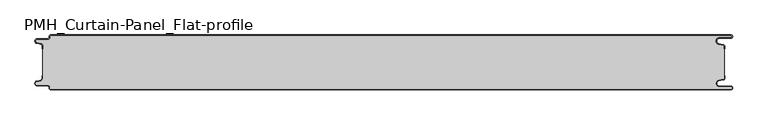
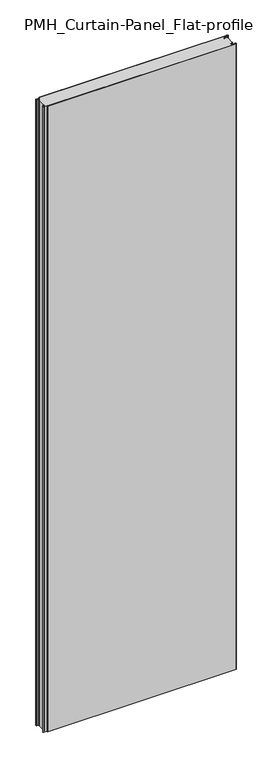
"""IFC4 building model written with IfcOpenShell, lengths in millimetres: plate geometry, PMH_Curtain-Panel_Flat-profile : ACH_PMH_Stone-wool-Panel_80M."""

from ifc_helpers import new_model, si_unit, point, frame, frame_2d, origin, origin_with_axes, place, context, project, spatial, polyline, circle_curve, trimmed, segment, composite_curve, outline, extrude, source, transform, mapped, element, save
from ifc_brep_helpers import plane_surface, cylinder_surface, revolved_surface, advanced_brep


def pmh_curtain_panel_flat_profile_2c1a84a9(model_context):
    return source(origin(), model_context, "Body", "SolidModel", [
        advanced_brep(
        [(508.1, 0.0, 3500.0), (-487.4, 0.0, 3500.0), (-489.4, -2.0, 3500.0), (-489.4, -3.4, 3500.0), (-491.4, -5.4, 3500.0), (-506.9, -5.4, 3500.0), (-507.7098239, -12.5077322, 3500.0), (-501.5500979, -13.929817, 3500.0), (-500.0, -15.878557, 3500.0), (-500.0, -20.0, 3500.0), (-499.2, -20.0, 3500.0), (-499.2, -15.878557, 3500.0), (-501.370137, -13.1503208, 3500.0), (-507.529863, -11.728236, 3500.0), (-506.9, -6.2, 3500.0), (-491.4, -6.2, 3500.0), (-488.6, -3.4, 3500.0), (-488.6, -2.0, 3500.0), (-487.4, -0.8, 3500.0), (508.1, -0.8, 3500.0), (508.1, -4.2, 3500.0), (491.1, -4.2, 3500.0), (490.2664884, -13.7270771, 3500.0), (496.7125669, -14.8636953, 3500.0), (498.2, -16.6363492, 3500.0), (498.2, -20.0, 3500.0), (499.0, -20.0, 3500.0), (499.0, -16.6363492, 3500.0), (496.8514855, -14.0758491, 3500.0), (490.405407, -12.939231, 3500.0), (491.1, -5.0, 3500.0), (508.1, -5.0, 3500.0), (510.6, -2.5000002, 3500.0), (-487.4, 0.0, 0.0), (508.1, 0.0, 0.0), (510.6, -2.4999998, 0.0), (508.1, -5.0, 0.0), (491.1, -5.0, 0.0), (490.405407, -12.939231, 0.0), (496.8514855, -14.0758491, 0.0), (499.0, -16.6363492, 0.0), (499.0, -20.0, 0.0), (498.2, -20.0, 0.0), (498.2, -16.6363492, 0.0), (496.7125669, -14.8636953, 0.0), (490.2664884, -13.7270771, 0.0), (491.1, -4.2, 0.0), (508.1, -4.2, 0.0), (508.1, -0.8, 0.0), (-487.4, -0.8, 0.0), (-488.6, -2.0, 0.0), (-488.6, -3.4, 0.0), (-491.4, -6.2, 0.0), (-506.9, -6.2, 0.0), (-507.529863, -11.7282362, 0.0), (-501.370137, -13.150321, 0.0), (-499.2, -15.878557, 0.0), (-499.2, -20.0, 0.0), (-500.0, -20.0, 0.0), (-500.0, -15.878557, 0.0), (-501.5500978, -13.9298169, 0.0), (-507.7098239, -12.507732, 0.0), (-506.9, -5.4, 0.0), (-491.4, -5.4, 0.0), (-489.4, -3.4, 0.0), (-489.4, -2.0, 0.0)],
        [
            (0, 1),
            (1, 2, circle_curve(frame((-487.4, -2.0, 3500.0), z_axis=(0.0, 0.0, 1.0), x_axis=(1.0, 0.0, 0.0)), 2.0)),
            (2, 3),
            (3, 4, circle_curve(frame((-491.4, -3.4, 3500.0), z_axis=(0.0, 0.0, -1.0), x_axis=(1.0, 0.0, 0.0)), 2.0)),
            (4, 5),
            (5, 6, circle_curve(frame((-506.9, -9.0, 3500.0), z_axis=(0.0, 0.0, 1.0), x_axis=(1.0, 0.0, 0.0)), 3.6)),
            (6, 7),
            (7, 8, circle_curve(frame((-502.0, -15.878557, 3500.0), z_axis=(0.0, 0.0, -1.0), x_axis=(1.0, 0.0, 0.0)), 2.0)),
            (8, 9),
            (9, 10),
            (10, 11),
            (11, 12, circle_curve(frame((-502.0, -15.878557, 3500.0), z_axis=(0.0, 0.0, 1.0), x_axis=(1.0, 0.0, 0.0)), 2.8)),
            (12, 13),
            (13, 14, circle_curve(frame((-506.9, -9.0, 3500.0), z_axis=(0.0, 0.0, -1.0), x_axis=(1.0, 0.0, 0.0)), 2.8)),
            (14, 15),
            (15, 16, circle_curve(frame((-491.4, -3.4, 3500.0), z_axis=(0.0, 0.0, 1.0), x_axis=(1.0, 0.0, 0.0)), 2.8)),
            (16, 17),
            (17, 18, circle_curve(frame((-487.4, -2.0, 3500.0), z_axis=(0.0, 0.0, -1.0), x_axis=(1.0, 0.0, 0.0)), 1.2)),
            (18, 19),
            (19, 20, circle_curve(frame((508.1, -2.5, 3500.0), z_axis=(0.0, 0.0, -1.0), x_axis=(1.0, 0.0, 0.0)), 1.7)),
            (20, 21),
            (21, 22, circle_curve(frame((491.1, -9.0, 3500.0), z_axis=(0.0, 0.0, 1.0), x_axis=(1.0, 0.0, 0.0)), 4.8)),
            (22, 23),
            (23, 24, circle_curve(frame((496.4, -16.6363492, 3500.0), z_axis=(0.0, 0.0, -1.0), x_axis=(1.0, 0.0, 0.0)), 1.8)),
            (24, 25),
            (25, 26),
            (26, 27),
            (27, 28, circle_curve(frame((496.4, -16.6363492, 3500.0), z_axis=(0.0, 0.0, 1.0), x_axis=(1.0, 0.0, 0.0)), 2.6)),
            (28, 29),
            (29, 30, circle_curve(frame((491.1, -9.0, 3500.0), z_axis=(0.0, 0.0, -1.0), x_axis=(1.0, 0.0, 0.0)), 4.0)),
            (30, 31),
            (31, 32, circle_curve(frame((508.1, -2.5, 3500.0), z_axis=(0.0, 0.0, 1.0), x_axis=(1.0, 0.0, 0.0)), 2.5)),
            (32, 0, circle_curve(frame((508.1, -2.5, 3500.0), z_axis=(0.0, 0.0, 1.0), x_axis=(1.0, 0.0, 0.0)), 2.5)),
            (33, 34),
            (34, 35, circle_curve(frame((508.1, -2.5, 0.0), z_axis=(0.0, 0.0, -1.0), x_axis=(1.0, 0.0, 0.0)), 2.5)),
            (35, 36, circle_curve(frame((508.1, -2.5, 0.0), z_axis=(0.0, 0.0, -1.0), x_axis=(1.0, 0.0, 0.0)), 2.5)),
            (36, 37),
            (37, 38, circle_curve(frame((491.1, -9.0, 0.0), z_axis=(0.0, 0.0, 1.0), x_axis=(1.0, 0.0, 0.0)), 4.0)),
            (38, 39),
            (39, 40, circle_curve(frame((496.4, -16.6363492, 0.0), z_axis=(0.0, 0.0, -1.0), x_axis=(1.0, 0.0, 0.0)), 2.6)),
            (40, 41),
            (41, 42),
            (42, 43),
            (43, 44, circle_curve(frame((496.4, -16.6363492, 0.0), z_axis=(0.0, 0.0, 1.0), x_axis=(1.0, 0.0, 0.0)), 1.8)),
            (44, 45),
            (45, 46, circle_curve(frame((491.1, -9.0, 0.0), z_axis=(0.0, 0.0, -1.0), x_axis=(1.0, 0.0, 0.0)), 4.8)),
            (46, 47),
            (47, 48, circle_curve(frame((508.1, -2.5, 0.0), z_axis=(0.0, 0.0, 1.0), x_axis=(1.0, 0.0, 0.0)), 1.7)),
            (48, 49),
            (49, 50, circle_curve(frame((-487.4, -2.0, 0.0), z_axis=(0.0, 0.0, 1.0), x_axis=(1.0, 0.0, 0.0)), 1.2)),
            (50, 51),
            (51, 52, circle_curve(frame((-491.4, -3.4, 0.0), z_axis=(0.0, 0.0, -1.0), x_axis=(1.0, 0.0, 0.0)), 2.8)),
            (52, 53),
            (53, 54, circle_curve(frame((-506.9, -9.0, 0.0), z_axis=(0.0, 0.0, 1.0), x_axis=(1.0, 0.0, 0.0)), 2.8)),
            (54, 55),
            (55, 56, circle_curve(frame((-502.0, -15.878557, 0.0), z_axis=(0.0, 0.0, -1.0), x_axis=(1.0, 0.0, 0.0)), 2.8)),
            (56, 57),
            (57, 58),
            (58, 59),
            (59, 60, circle_curve(frame((-502.0, -15.878557, 0.0), z_axis=(0.0, 0.0, 1.0), x_axis=(1.0, 0.0, 0.0)), 2.0)),
            (60, 61),
            (61, 62, circle_curve(frame((-506.9, -9.0, 0.0), z_axis=(0.0, 0.0, -1.0), x_axis=(1.0, 0.0, 0.0)), 3.6)),
            (62, 63),
            (63, 64, circle_curve(frame((-491.4, -3.4, 0.0), z_axis=(0.0, 0.0, 1.0), x_axis=(1.0, 0.0, 0.0)), 2.0)),
            (64, 65),
            (65, 33, circle_curve(frame((-487.4, -2.0, 0.0), z_axis=(0.0, 0.0, -1.0), x_axis=(1.0, 0.0, 0.0)), 2.0)),
            (1, 33),
            (65, 2),
            (64, 3),
            (63, 4),
            (62, 5),
            (61, 6),
            (60, 7),
            (59, 8),
            (58, 9),
            (57, 10),
            (56, 11),
            (55, 12),
            (54, 13),
            (53, 14),
            (52, 15),
            (51, 16),
            (50, 17),
            (49, 18),
            (48, 19),
            (47, 20),
            (46, 21),
            (45, 22),
            (44, 23),
            (43, 24),
            (42, 25),
            (41, 26),
            (40, 27),
            (39, 28),
            (38, 29),
            (37, 30),
            (36, 31),
            (34, 0),
        ],
        [
            plane_surface(frame((-500.0, 0.0, 3500.0), z_axis=(0.0, 0.0, 1.0), x_axis=(0.0, 1.0, 0.0))),
            plane_surface(frame((-500.0, 0.0, 0.0), z_axis=(0.0, 0.0, -1.0), x_axis=(0.0, 1.0, 0.0))),
            cylinder_surface(frame((-487.4, -2.0, 3500.0), z_axis=(0.0, 0.0, 1.0), x_axis=(1.0, 0.0, 0.0)), 2.0),
            plane_surface(frame((-489.4, -2.0, 3500.0), z_axis=(-1.0, 0.0, 0.0), x_axis=(0.0, 0.0, -1.0))),
            revolved_surface(polyline([(-489.4, -3.4, 0.0), (-489.4, -3.4, 3500.0)]), (-491.4, -3.4, 3500.0), (0.0, 0.0, -1.0)),
            plane_surface(frame((-491.4, -5.4, 3500.0), z_axis=(0.0, 1.0, 0.0), x_axis=(0.0, 0.0, -1.0))),
            cylinder_surface(frame((-506.9, -9.0, 3500.0), z_axis=(0.0, 0.0, 1.0), x_axis=(1.0, 0.0, 0.0)), 3.6),
            plane_surface(frame((-507.7098239, -12.507732, 3500.0), z_axis=(-0.2249510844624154, -0.9743700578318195, 0.0), x_axis=(0.0, 0.0, -1.0))),
            revolved_surface(polyline([(-500.0, -15.878557, 0.0), (-500.0, -15.878557, 3500.0)]), (-502.0, -15.878557, 3500.0), (0.0, 0.0, -1.0)),
            plane_surface(frame((-500.0, -15.878557, 3500.0), z_axis=(-1.0, 0.0, 0.0), x_axis=(0.0, 0.0, -1.0))),
            plane_surface(frame((-500.0, -20.0, 3500.0), z_axis=(0.0, -1.0, 0.0), x_axis=(0.0, 0.0, -1.0))),
            plane_surface(frame((-499.2, -20.0, 3500.0), z_axis=(1.0, 0.0, 0.0), x_axis=(0.0, 0.0, -1.0))),
            cylinder_surface(frame((-502.0, -15.878557, 3500.0), z_axis=(0.0, 0.0, 1.0), x_axis=(1.0, 0.0, 0.0)), 2.8),
            plane_surface(frame((-501.370137, -13.150321, 3500.0), z_axis=(0.22495108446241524, 0.9743700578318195, 0.0), x_axis=(0.0, 0.0, -1.0))),
            revolved_surface(polyline([(-504.09999999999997, -9.0, 0.0), (-504.09999999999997, -9.0, 3500.0)]), (-506.9, -9.0, 3500.0), (0.0, 0.0, -1.0)),
            plane_surface(frame((-506.9, -6.2, 3500.0), z_axis=(0.0, -1.0, 0.0), x_axis=(0.0, 0.0, -1.0))),
            cylinder_surface(frame((-491.4, -3.4, 3500.0), z_axis=(0.0, 0.0, 1.0), x_axis=(1.0, 0.0, 0.0)), 2.8),
            plane_surface(frame((-488.6, -3.4, 3500.0), z_axis=(1.0, 0.0, 0.0), x_axis=(0.0, 0.0, -1.0))),
            revolved_surface(polyline([(-486.2, -2.0, 0.0), (-486.2, -2.0, 3500.0)]), (-487.4, -2.0, 3500.0), (0.0, 0.0, -1.0)),
            plane_surface(frame((-487.4, -0.8, 3500.0), z_axis=(0.0, -1.0, 0.0), x_axis=(0.0, 0.0, -1.0))),
            revolved_surface(polyline([(509.8, -2.5, 0.0), (509.8, -2.5, 3500.0)]), (508.1, -2.5, 3500.0), (0.0, 0.0, -1.0)),
            plane_surface(frame((508.1, -4.2, 3500.0), z_axis=(0.0, 1.0, 0.0), x_axis=(0.0, 0.0, -1.0))),
            cylinder_surface(frame((491.1, -9.0, 3500.0), z_axis=(0.0, 0.0, 1.0), x_axis=(1.0, 0.0, 0.0)), 4.8),
            plane_surface(frame((490.2664884, -13.7270771, 3500.0), z_axis=(-0.17364826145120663, -0.984807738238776, 0.0), x_axis=(0.0, 0.0, -1.0))),
            revolved_surface(polyline([(498.2, -16.6363492, 0.0), (498.2, -16.6363492, 3500.0)]), (496.4, -16.6363492, 3500.0), (0.0, 0.0, -1.0)),
            plane_surface(frame((498.2, -16.6363492, 3500.0), z_axis=(-1.0, 0.0, 0.0), x_axis=(0.0, 0.0, -1.0))),
            plane_surface(frame((498.2, -20.0, 3500.0), z_axis=(0.0, -1.0, 0.0), x_axis=(0.0, 0.0, -1.0))),
            plane_surface(frame((499.0, -20.0, 3500.0), z_axis=(1.0, 0.0, 0.0), x_axis=(0.0, 0.0, -1.0))),
            cylinder_surface(frame((496.4, -16.6363492, 3500.0), z_axis=(0.0, 0.0, 1.0), x_axis=(1.0, 0.0, 0.0)), 2.6),
            plane_surface(frame((496.8514855, -14.0758491, 3500.0), z_axis=(0.17364826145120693, 0.9848077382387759, 0.0), x_axis=(0.0, 0.0, -1.0))),
            revolved_surface(polyline([(495.1, -9.0, 0.0), (495.1, -9.0, 3500.0)]), (491.1, -9.0, 3500.0), (0.0, 0.0, -1.0)),
            plane_surface(frame((491.1, -5.0, 3500.0), z_axis=(0.0, -1.0, 0.0), x_axis=(0.0, 0.0, -1.0))),
            cylinder_surface(frame((508.1, -2.5, 3500.0), z_axis=(0.0, 0.0, 1.0), x_axis=(1.0, 0.0, 0.0)), 2.5),
            plane_surface(frame((490.5783588, 0.0, 3500.0), z_axis=(0.0, 1.0, 0.0), x_axis=(0.0, 0.0, -1.0))),
        ],
        [
            (0, [[1, 2, 3, 4, 5, 6, 7, 8, 9, 10, 11, 12, 13, 14, 15, 16, 17, 18, 19, 20, 21, 22, 23, 24, 25, 26, 27, 28, 29, 30, 31, 32, 33]]),
            (1, [[34, 35, 36, 37, 38, 39, 40, 41, 42, 43, 44, 45, 46, 47, 48, 49, 50, 51, 52, 53, 54, 55, 56, 57, 58, 59, 60, 61, 62, 63, 64, 65, 66]]),
            (2, [[-2, 67, -66, 68]]),
            (3, [[-3, -68, -65, 69]]),
            (4, [[-4, -69, -64, 70]]),
            (5, [[-5, -70, -63, 71]]),
            (6, [[-6, -71, -62, 72]]),
            (7, [[-7, -72, -61, 73]]),
            (8, [[-8, -73, -60, 74]]),
            (9, [[-9, -74, -59, 75]]),
            (10, [[-10, -75, -58, 76]]),
            (11, [[-11, -76, -57, 77]]),
            (12, [[-12, -77, -56, 78]]),
            (13, [[-13, -78, -55, 79]]),
            (14, [[-14, -79, -54, 80]]),
            (15, [[-15, -80, -53, 81]]),
            (16, [[-16, -81, -52, 82]]),
            (17, [[-17, -82, -51, 83]]),
            (18, [[-18, -83, -50, 84]]),
            (19, [[-19, -84, -49, 85]]),
            (20, [[-20, -85, -48, 86]]),
            (21, [[-21, -86, -47, 87]]),
            (22, [[-22, -87, -46, 88]]),
            (23, [[-23, -88, -45, 89]]),
            (24, [[-24, -89, -44, 90]]),
            (25, [[-25, -90, -43, 91]]),
            (26, [[-26, -91, -42, 92]]),
            (27, [[-27, -92, -41, 93]]),
            (28, [[-28, -93, -40, 94]]),
            (29, [[-29, -94, -39, 95]]),
            (30, [[-30, -95, -38, 96]]),
            (31, [[-31, -96, -37, 97]]),
            (32, [[-97, -36, -35, 98, -33, -32]]),
            (33, [[-1, -98, -34, -67]]),
        ],
    ),
        extrude(outline(composite_curve([segment(polyline([(-499.2, -64.1214426), (-499.2, -15.8785573)]), True, "CONTINUOUS"), segment(trimmed(circle_curve(frame_2d((-502.0, -15.8785573)), 2.8), [point((-499.2, -15.8785573))], [point((-501.370137, -13.1503212))], True, "CARTESIAN"), True, "CONTINUOUS"), segment(polyline([(-501.370137, -13.1503212), (-507.5298631, -11.7282362)]), True, "CONTINUOUS"), segment(trimmed(circle_curve(frame_2d((-506.9, -9.0)), 2.8), [point((-507.5298631, -11.7282362))], [point((-506.9, -6.2))], False, "CARTESIAN"), True, "CONTINUOUS"), segment(polyline([(-506.9, -6.2), (-491.4000001, -6.2)]), True, "CONTINUOUS"), segment(trimmed(circle_curve(frame_2d((-491.4000001, -3.4)), 2.8), [point((-491.4000001, -6.2))], [point((-488.6000001, -3.4))], True, "CARTESIAN"), True, "CONTINUOUS"), segment(polyline([(-488.6000001, -3.4), (-488.6000001, -2.0)]), True, "CONTINUOUS"), segment(trimmed(circle_curve(frame_2d((-487.4000001, -2.0)), 1.2), [point((-488.6000001, -2.0))], [point((-487.4000001, -0.8))], False, "CARTESIAN"), True, "CONTINUOUS"), segment(polyline([(-487.4000001, -0.8), (508.1, -0.8)]), True, "CONTINUOUS"), segment(trimmed(circle_curve(frame_2d((508.1, -2.5)), 1.7), [point((508.1, -0.8))], [point((508.1, -4.2))], False, "CARTESIAN"), True, "CONTINUOUS"), segment(polyline([(508.1, -4.2), (491.1, -4.2)]), True, "CONTINUOUS"), segment(trimmed(circle_curve(frame_2d((491.1, -9.0)), 4.8), [point((491.1, -4.2))], [point((490.2664883, -13.7270771))], True, "CARTESIAN"), True, "CONTINUOUS"), segment(polyline([(490.2664883, -13.7270771), (496.7125668, -14.8636953)]), True, "CONTINUOUS"), segment(trimmed(circle_curve(frame_2d((496.4, -16.6363492)), 1.8), [point((496.7125668, -14.8636953))], [point((498.2, -16.6363492))], False, "CARTESIAN"), True, "CONTINUOUS"), segment(polyline([(498.2, -16.6363492), (498.2, -63.3636508)]), True, "CONTINUOUS"), segment(trimmed(circle_curve(frame_2d((496.4, -63.3636508)), 1.8), [point((498.2, -63.3636508))], [point((496.7125668, -65.1363047))], False, "CARTESIAN"), True, "CONTINUOUS"), segment(polyline([(496.7125668, -65.1363047), (490.2664883, -66.2729229)]), True, "CONTINUOUS"), segment(trimmed(circle_curve(frame_2d((491.1, -71.0)), 4.8), [point((490.2664883, -66.2729229))], [point((491.1, -75.8))], True, "CARTESIAN"), True, "CONTINUOUS"), segment(polyline([(491.1, -75.8), (508.1, -75.8)]), True, "CONTINUOUS"), segment(trimmed(circle_curve(frame_2d((508.1, -77.5)), 1.7), [point((508.1, -75.8))], [point((508.1, -79.2))], False, "CARTESIAN"), True, "CONTINUOUS"), segment(polyline([(508.1, -79.2), (-487.4000001, -79.2)]), True, "CONTINUOUS"), segment(trimmed(circle_curve(frame_2d((-487.4000001, -78.0)), 1.2), [point((-487.4000001, -79.2))], [point((-488.6000001, -78.0))], False, "CARTESIAN"), True, "CONTINUOUS"), segment(polyline([(-488.6000001, -78.0), (-488.6000001, -76.6)]), True, "CONTINUOUS"), segment(trimmed(circle_curve(frame_2d((-491.4000001, -76.6)), 2.8), [point((-488.6000001, -76.6))], [point((-491.4000001, -73.8))], True, "CARTESIAN"), True, "CONTINUOUS"), segment(polyline([(-491.4000001, -73.8), (-506.9, -73.8)]), True, "CONTINUOUS"), segment(trimmed(circle_curve(frame_2d((-506.9, -71.0)), 2.8), [point((-506.9, -73.8))], [point((-507.5298631, -68.2717638))], False, "CARTESIAN"), True, "CONTINUOUS"), segment(polyline([(-507.5298631, -68.2717638), (-501.370137, -66.8496788)]), True, "CONTINUOUS"), segment(trimmed(circle_curve(frame_2d((-502.0, -64.1214426)), 2.8), [point((-501.370137, -66.8496788))], [point((-499.2, -64.1214426))], True, "CARTESIAN"), True, "CONTINUOUS")], self_intersect=False)), origin_with_axes(), (0.0, 0.0, 1.0), 3500.0),
        advanced_brep(
        [(-487.4, -80.0, 3500.0), (508.1, -80.0, 3500.0), (510.6, -77.5000002, 3500.0), (508.1, -75.0, 3500.0), (491.1, -75.0, 3500.0), (490.405407, -67.060769, 3500.0), (496.8514855, -65.9241509, 3500.0), (499.0, -63.3636508, 3500.0), (499.0, -60.0, 3500.0), (498.2, -60.0, 3500.0), (498.2, -63.3636508, 3500.0), (496.7125669, -65.1363047, 3500.0), (490.2664884, -66.2729229, 3500.0), (491.1, -75.8, 3500.0), (508.1, -75.8, 3500.0), (508.1, -79.2, 3500.0), (-487.4, -79.2, 3500.0), (-488.6, -78.0, 3500.0), (-488.6, -76.6, 3500.0), (-491.4, -73.8, 3500.0), (-506.9, -73.8, 3500.0), (-507.529863, -68.2717638, 3500.0), (-501.370137, -66.849679, 3500.0), (-499.2, -64.121443, 3500.0), (-499.2, -60.0, 3500.0), (-500.0, -60.0, 3500.0), (-500.0, -64.121443, 3500.0), (-501.5500978, -66.0701831, 3500.0), (-507.7098239, -67.492268, 3500.0), (-506.9, -74.6, 3500.0), (-491.4, -74.6, 3500.0), (-489.4, -76.6, 3500.0), (-489.4, -78.0, 3500.0), (508.1, -80.0, 0.0), (-487.4, -80.0, 0.0), (-489.4, -78.0, 0.0), (-489.4, -76.6, 0.0), (-491.4, -74.6, 0.0), (-506.9, -74.6, 0.0), (-507.7098239, -67.4922678, 0.0), (-501.5500979, -66.070183, 0.0), (-500.0, -64.121443, 0.0), (-500.0, -60.0, 0.0), (-499.2, -60.0, 0.0), (-499.2, -64.121443, 0.0), (-501.370137, -66.8496792, 0.0), (-507.529863, -68.271764, 0.0), (-506.9, -73.8, 0.0), (-491.4, -73.8, 0.0), (-488.6, -76.6, 0.0), (-488.6, -78.0, 0.0), (-487.4, -79.2, 0.0), (508.1, -79.2, 0.0), (508.1, -75.8, 0.0), (491.1, -75.8, 0.0), (490.2664884, -66.2729229, 0.0), (496.7125669, -65.1363047, 0.0), (498.2, -63.3636508, 0.0), (498.2, -60.0, 0.0), (499.0, -60.0, 0.0), (499.0, -63.3636508, 0.0), (496.8514855, -65.9241509, 0.0), (490.405407, -67.060769, 0.0), (491.1, -75.0, 0.0), (508.1, -75.0, 0.0), (510.6, -77.4999998, 0.0)],
        [
            (0, 1),
            (1, 2, circle_curve(frame((508.1, -77.5, 3500.0), z_axis=(0.0, 0.0, 1.0), x_axis=(1.0, 0.0, 0.0)), 2.5)),
            (2, 3, circle_curve(frame((508.1, -77.5, 3500.0), z_axis=(0.0, 0.0, 1.0), x_axis=(1.0, 0.0, 0.0)), 2.5)),
            (3, 4),
            (4, 5, circle_curve(frame((491.1, -71.0, 3500.0), z_axis=(0.0, 0.0, -1.0), x_axis=(1.0, 0.0, 0.0)), 4.0)),
            (5, 6),
            (6, 7, circle_curve(frame((496.4, -63.3636508, 3500.0), z_axis=(0.0, 0.0, 1.0), x_axis=(1.0, 0.0, 0.0)), 2.6)),
            (7, 8),
            (8, 9),
            (9, 10),
            (10, 11, circle_curve(frame((496.4, -63.3636508, 3500.0), z_axis=(0.0, 0.0, -1.0), x_axis=(1.0, 0.0, 0.0)), 1.8)),
            (11, 12),
            (12, 13, circle_curve(frame((491.1, -71.0, 3500.0), z_axis=(0.0, 0.0, 1.0), x_axis=(1.0, 0.0, 0.0)), 4.8)),
            (13, 14),
            (14, 15, circle_curve(frame((508.1, -77.5, 3500.0), z_axis=(0.0, 0.0, -1.0), x_axis=(1.0, 0.0, 0.0)), 1.7)),
            (15, 16),
            (16, 17, circle_curve(frame((-487.4, -78.0, 3500.0), z_axis=(0.0, 0.0, -1.0), x_axis=(1.0, 0.0, 0.0)), 1.2)),
            (17, 18),
            (18, 19, circle_curve(frame((-491.4, -76.6, 3500.0), z_axis=(0.0, 0.0, 1.0), x_axis=(1.0, 0.0, 0.0)), 2.8)),
            (19, 20),
            (20, 21, circle_curve(frame((-506.9, -71.0, 3500.0), z_axis=(0.0, 0.0, -1.0), x_axis=(1.0, 0.0, 0.0)), 2.8)),
            (21, 22),
            (22, 23, circle_curve(frame((-502.0, -64.121443, 3500.0), z_axis=(0.0, 0.0, 1.0), x_axis=(1.0, 0.0, 0.0)), 2.8)),
            (23, 24),
            (24, 25),
            (25, 26),
            (26, 27, circle_curve(frame((-502.0, -64.121443, 3500.0), z_axis=(0.0, 0.0, -1.0), x_axis=(1.0, 0.0, 0.0)), 2.0)),
            (27, 28),
            (28, 29, circle_curve(frame((-506.9, -71.0, 3500.0), z_axis=(0.0, 0.0, 1.0), x_axis=(1.0, 0.0, 0.0)), 3.6)),
            (29, 30),
            (30, 31, circle_curve(frame((-491.4, -76.6, 3500.0), z_axis=(0.0, 0.0, -1.0), x_axis=(1.0, 0.0, 0.0)), 2.0)),
            (31, 32),
            (32, 0, circle_curve(frame((-487.4, -78.0, 3500.0), z_axis=(0.0, 0.0, 1.0), x_axis=(1.0, 0.0, 0.0)), 2.0)),
            (33, 34),
            (34, 35, circle_curve(frame((-487.4, -78.0, 0.0), z_axis=(0.0, 0.0, -1.0), x_axis=(1.0, 0.0, 0.0)), 2.0)),
            (35, 36),
            (36, 37, circle_curve(frame((-491.4, -76.6, 0.0), z_axis=(0.0, 0.0, 1.0), x_axis=(1.0, 0.0, 0.0)), 2.0)),
            (37, 38),
            (38, 39, circle_curve(frame((-506.9, -71.0, 0.0), z_axis=(0.0, 0.0, -1.0), x_axis=(1.0, 0.0, 0.0)), 3.6)),
            (39, 40),
            (40, 41, circle_curve(frame((-502.0, -64.121443, 0.0), z_axis=(0.0, 0.0, 1.0), x_axis=(1.0, 0.0, 0.0)), 2.0)),
            (41, 42),
            (42, 43),
            (43, 44),
            (44, 45, circle_curve(frame((-502.0, -64.121443, 0.0), z_axis=(0.0, 0.0, -1.0), x_axis=(1.0, 0.0, 0.0)), 2.8)),
            (45, 46),
            (46, 47, circle_curve(frame((-506.9, -71.0, 0.0), z_axis=(0.0, 0.0, 1.0), x_axis=(1.0, 0.0, 0.0)), 2.8)),
            (47, 48),
            (48, 49, circle_curve(frame((-491.4, -76.6, 0.0), z_axis=(0.0, 0.0, -1.0), x_axis=(1.0, 0.0, 0.0)), 2.8)),
            (49, 50),
            (50, 51, circle_curve(frame((-487.4, -78.0, 0.0), z_axis=(0.0, 0.0, 1.0), x_axis=(1.0, 0.0, 0.0)), 1.2)),
            (51, 52),
            (52, 53, circle_curve(frame((508.1, -77.5, 0.0), z_axis=(0.0, 0.0, 1.0), x_axis=(1.0, 0.0, 0.0)), 1.7)),
            (53, 54),
            (54, 55, circle_curve(frame((491.1, -71.0, 0.0), z_axis=(0.0, 0.0, -1.0), x_axis=(1.0, 0.0, 0.0)), 4.8)),
            (55, 56),
            (56, 57, circle_curve(frame((496.4, -63.3636508, 0.0), z_axis=(0.0, 0.0, 1.0), x_axis=(1.0, 0.0, 0.0)), 1.8)),
            (57, 58),
            (58, 59),
            (59, 60),
            (60, 61, circle_curve(frame((496.4, -63.3636508, 0.0), z_axis=(0.0, 0.0, -1.0), x_axis=(1.0, 0.0, 0.0)), 2.6)),
            (61, 62),
            (62, 63, circle_curve(frame((491.1, -71.0, 0.0), z_axis=(0.0, 0.0, 1.0), x_axis=(1.0, 0.0, 0.0)), 4.0)),
            (63, 64),
            (64, 65, circle_curve(frame((508.1, -77.5, 0.0), z_axis=(0.0, 0.0, -1.0), x_axis=(1.0, 0.0, 0.0)), 2.5)),
            (65, 33, circle_curve(frame((508.1, -77.5, 0.0), z_axis=(0.0, 0.0, -1.0), x_axis=(1.0, 0.0, 0.0)), 2.5)),
            (0, 34),
            (33, 1),
            (64, 3),
            (63, 4),
            (62, 5),
            (61, 6),
            (60, 7),
            (59, 8),
            (58, 9),
            (57, 10),
            (56, 11),
            (55, 12),
            (54, 13),
            (53, 14),
            (52, 15),
            (51, 16),
            (50, 17),
            (49, 18),
            (48, 19),
            (47, 20),
            (46, 21),
            (45, 22),
            (44, 23),
            (43, 24),
            (42, 25),
            (41, 26),
            (40, 27),
            (39, 28),
            (38, 29),
            (37, 30),
            (36, 31),
            (35, 32),
        ],
        [
            plane_surface(frame((-500.0, -80.0, 3500.0), z_axis=(0.0, 0.0, 1.0), x_axis=(0.0, 1.0, 0.0))),
            plane_surface(frame((-500.0, -80.0, 0.0), z_axis=(0.0, 0.0, -1.0), x_axis=(0.0, 1.0, 0.0))),
            plane_surface(frame((490.5783588, -80.0, 3500.0), z_axis=(0.0, -1.0, 0.0), x_axis=(0.0, 0.0, -1.0))),
            cylinder_surface(frame((508.1, -77.5, 3500.0), z_axis=(0.0, 0.0, 1.0), x_axis=(1.0, 0.0, 0.0)), 2.5),
            plane_surface(frame((508.1, -75.0, 3500.0), z_axis=(0.0, 1.0, 0.0), x_axis=(0.0, 0.0, -1.0))),
            revolved_surface(polyline([(495.1, -71.0, 0.0), (495.1, -71.0, 3500.0)]), (491.1, -71.0, 3500.0), (0.0, 0.0, -1.0)),
            plane_surface(frame((490.405407, -67.060769, 3500.0), z_axis=(0.17364826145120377, -0.9848077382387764, 0.0), x_axis=(0.0, 0.0, -1.0))),
            cylinder_surface(frame((496.4, -63.3636508, 3500.0), z_axis=(0.0, 0.0, 1.0), x_axis=(1.0, 0.0, 0.0)), 2.6),
            plane_surface(frame((499.0, -63.3636508, 3500.0), z_axis=(1.0, 0.0, 0.0), x_axis=(0.0, 0.0, -1.0))),
            plane_surface(frame((499.0, -60.0, 3500.0), z_axis=(0.0, 1.0, 0.0), x_axis=(0.0, 0.0, -1.0))),
            plane_surface(frame((498.2, -60.0, 3500.0), z_axis=(-1.0, 0.0, 0.0), x_axis=(0.0, 0.0, -1.0))),
            revolved_surface(polyline([(498.2, -63.3636508, 0.0), (498.2, -63.3636508, 3500.0)]), (496.4, -63.3636508, 3500.0), (0.0, 0.0, -1.0)),
            plane_surface(frame((496.7125669, -65.1363047, 3500.0), z_axis=(-0.17364826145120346, 0.9848077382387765, 0.0), x_axis=(0.0, 0.0, -1.0))),
            cylinder_surface(frame((491.1, -71.0, 3500.0), z_axis=(0.0, 0.0, 1.0), x_axis=(1.0, 0.0, 0.0)), 4.8),
            plane_surface(frame((491.1, -75.8, 3500.0), z_axis=(0.0, -1.0, 0.0), x_axis=(0.0, 0.0, -1.0))),
            revolved_surface(polyline([(509.8, -77.5, 0.0), (509.8, -77.5, 3500.0)]), (508.1, -77.5, 3500.0), (0.0, 0.0, -1.0)),
            plane_surface(frame((508.1, -79.2, 3500.0), z_axis=(0.0, 1.0, 0.0), x_axis=(0.0, 0.0, -1.0))),
            revolved_surface(polyline([(-486.2, -78.0, 0.0), (-486.2, -78.0, 3500.0)]), (-487.4, -78.0, 3500.0), (0.0, 0.0, -1.0)),
            plane_surface(frame((-488.6, -78.0, 3500.0), z_axis=(1.0, 0.0, 0.0), x_axis=(0.0, 0.0, -1.0))),
            cylinder_surface(frame((-491.4, -76.6, 3500.0), z_axis=(0.0, 0.0, 1.0), x_axis=(1.0, 0.0, 0.0)), 2.8),
            plane_surface(frame((-491.4, -73.8, 3500.0), z_axis=(0.0, 1.0, 0.0), x_axis=(0.0, 0.0, -1.0))),
            revolved_surface(polyline([(-504.09999999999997, -71.0, 0.0), (-504.09999999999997, -71.0, 3500.0)]), (-506.9, -71.0, 3500.0), (0.0, 0.0, -1.0)),
            plane_surface(frame((-507.529863, -68.271764, 3500.0), z_axis=(0.2249510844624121, -0.9743700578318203, 0.0), x_axis=(0.0, 0.0, -1.0))),
            cylinder_surface(frame((-502.0, -64.121443, 3500.0), z_axis=(0.0, 0.0, 1.0), x_axis=(1.0, 0.0, 0.0)), 2.8),
            plane_surface(frame((-499.2, -64.121443, 3500.0), z_axis=(1.0, 0.0, 0.0), x_axis=(0.0, 0.0, -1.0))),
            plane_surface(frame((-499.2, -60.0, 3500.0), z_axis=(0.0, 1.0, 0.0), x_axis=(0.0, 0.0, -1.0))),
            plane_surface(frame((-500.0, -60.0, 3500.0), z_axis=(-1.0, 0.0, 0.0), x_axis=(0.0, 0.0, -1.0))),
            revolved_surface(polyline([(-500.0, -64.121443, 0.0), (-500.0, -64.121443, 3500.0)]), (-502.0, -64.121443, 3500.0), (0.0, 0.0, -1.0)),
            plane_surface(frame((-501.5500979, -66.070183, 3500.0), z_axis=(-0.22495108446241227, 0.9743700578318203, 0.0), x_axis=(0.0, 0.0, -1.0))),
            cylinder_surface(frame((-506.9, -71.0, 3500.0), z_axis=(0.0, 0.0, 1.0), x_axis=(1.0, 0.0, 0.0)), 3.6),
            plane_surface(frame((-506.9, -74.6, 3500.0), z_axis=(0.0, -1.0, 0.0), x_axis=(0.0, 0.0, -1.0))),
            revolved_surface(polyline([(-489.4, -76.6, 0.0), (-489.4, -76.6, 3500.0)]), (-491.4, -76.6, 3500.0), (0.0, 0.0, -1.0)),
            plane_surface(frame((-489.4, -76.6, 3500.0), z_axis=(-1.0, 0.0, 0.0), x_axis=(0.0, 0.0, -1.0))),
            cylinder_surface(frame((-487.4, -78.0, 3500.0), z_axis=(0.0, 0.0, 1.0), x_axis=(1.0, 0.0, 0.0)), 2.0),
        ],
        [
            (0, [[1, 2, 3, 4, 5, 6, 7, 8, 9, 10, 11, 12, 13, 14, 15, 16, 17, 18, 19, 20, 21, 22, 23, 24, 25, 26, 27, 28, 29, 30, 31, 32, 33]]),
            (1, [[34, 35, 36, 37, 38, 39, 40, 41, 42, 43, 44, 45, 46, 47, 48, 49, 50, 51, 52, 53, 54, 55, 56, 57, 58, 59, 60, 61, 62, 63, 64, 65, 66]]),
            (2, [[-1, 67, -34, 68]]),
            (3, [[-68, -66, -65, 69, -3, -2]]),
            (4, [[-4, -69, -64, 70]]),
            (5, [[-5, -70, -63, 71]]),
            (6, [[-6, -71, -62, 72]]),
            (7, [[-7, -72, -61, 73]]),
            (8, [[-8, -73, -60, 74]]),
            (9, [[-9, -74, -59, 75]]),
            (10, [[-10, -75, -58, 76]]),
            (11, [[-11, -76, -57, 77]]),
            (12, [[-12, -77, -56, 78]]),
            (13, [[-13, -78, -55, 79]]),
            (14, [[-14, -79, -54, 80]]),
            (15, [[-15, -80, -53, 81]]),
            (16, [[-16, -81, -52, 82]]),
            (17, [[-17, -82, -51, 83]]),
            (18, [[-18, -83, -50, 84]]),
            (19, [[-19, -84, -49, 85]]),
            (20, [[-20, -85, -48, 86]]),
            (21, [[-21, -86, -47, 87]]),
            (22, [[-22, -87, -46, 88]]),
            (23, [[-23, -88, -45, 89]]),
            (24, [[-24, -89, -44, 90]]),
            (25, [[-25, -90, -43, 91]]),
            (26, [[-26, -91, -42, 92]]),
            (27, [[-27, -92, -41, 93]]),
            (28, [[-28, -93, -40, 94]]),
            (29, [[-29, -94, -39, 95]]),
            (30, [[-30, -95, -38, 96]]),
            (31, [[-31, -96, -37, 97]]),
            (32, [[-32, -97, -36, 98]]),
            (33, [[-33, -98, -35, -67]]),
        ],
    ),
    ])


if __name__ == "__main__":
    model = new_model("IFC4")
    model_context = context("Model", 3, world=origin())
    ifc_project = project(units=[si_unit("LENGTHUNIT", "METRE", prefix="MILLI")], contexts=[model_context])
    site = spatial("IfcSite", under=ifc_project)
    building = spatial("IfcBuilding", under=site)
    placement = place(None, origin())
    pmh_curtain_panel_flat_profile_shape = pmh_curtain_panel_flat_profile_2c1a84a9(model_context)
    element("IfcPlate", 1, ObjectType="PMH_Curtain-Panel_Flat-profile : ACH_PMH_Stone-wool-Panel_80M", at=placement, inside=building, context=model_context, shape_type="MappedRepresentation", body=[
        mapped(pmh_curtain_panel_flat_profile_shape, transform((0.0, 0.0, 0.0), x_axis=(1.0, 0.0, 0.0), y_axis=(0.0, 1.0, 0.0), z_axis=(0.0, 0.0, 1.0))),
    ])
    save(model, "model.ifc")
